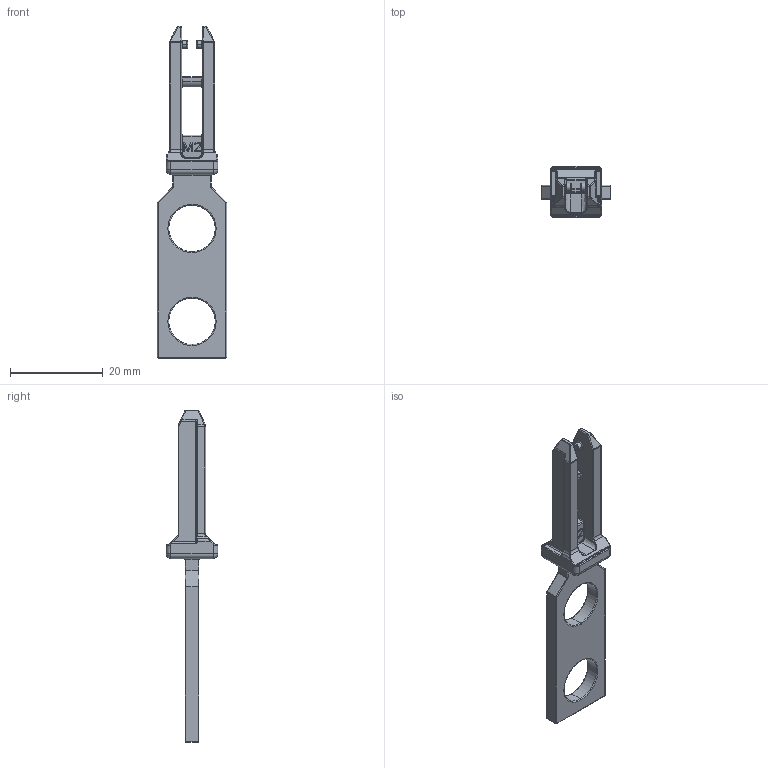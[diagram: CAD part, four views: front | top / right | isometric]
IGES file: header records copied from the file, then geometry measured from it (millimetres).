
Start section:  PTC IGES file: 2038342
Global section: file name: 2038342; native system: Creo Parametric by PTC Inc.; preprocessor: 2019292; author: s.mayer; organization: Unknown; date: 20251119.090828; units: millimetre
Bounding box: 15 x 11.1 x 71.5 mm (x, y, z)
Surface area: 2542.6 mm2 (no closed solid volume)
Topology: 0 solids, 0 shells, 369 faces, 1800 edges, 1784 vertices
Faces by surface type: revolution 235, bspline 134
